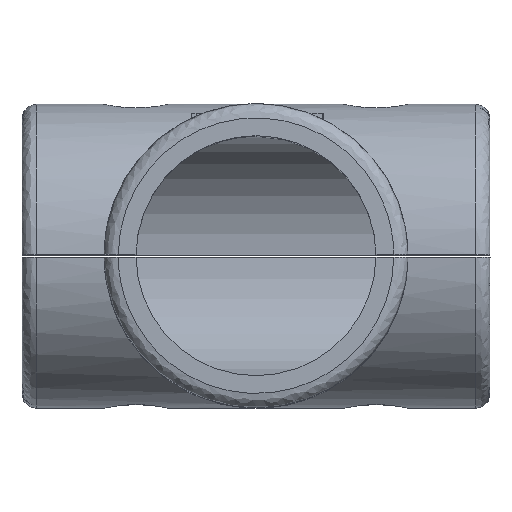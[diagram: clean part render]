
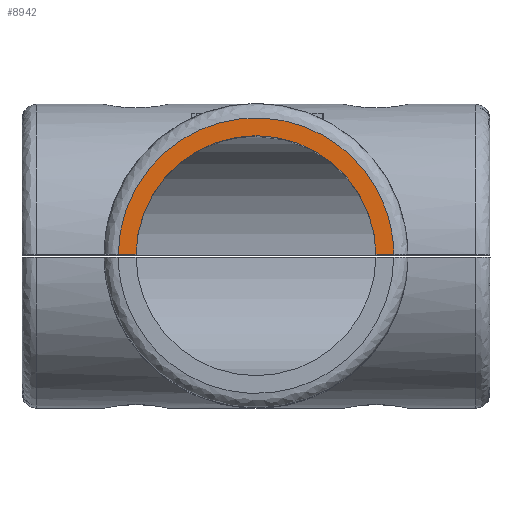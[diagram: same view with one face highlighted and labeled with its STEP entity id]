
A CAD part, top view. The second image highlights one B-rep face of the part: STEP entity #8942.
In plain terms, the highlighted planar face has unit normal (0, 0, 1).
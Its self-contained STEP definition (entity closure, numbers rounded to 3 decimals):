
#502 = ORIENTED_EDGE ( 'NONE', *, *, #7623, .T. ) ;
#1460 = VERTEX_POINT ( 'NONE', #11901 ) ;
#1527 =( BOUNDED_CURVE ( )  B_SPLINE_CURVE ( 3, ( #1851, #9462, #5157, #11719 ),
 .UNSPECIFIED., .F., .T. ) 
 B_SPLINE_CURVE_WITH_KNOTS ( ( 4, 4 ),
 ( 0., 1. ),
 .UNSPECIFIED. ) 
 CURVE ( )  GEOMETRIC_REPRESENTATION_ITEM ( )  RATIONAL_B_SPLINE_CURVE ( ( 1., 0.34, 0.34, 1. ) ) 
 REPRESENTATION_ITEM ( '' )  );
#1851 = CARTESIAN_POINT ( 'NONE',  ( -28.998, 0.3, 75. ) ) ;
#2168 = VECTOR ( 'NONE', #12992, 1000. ) ;
#2247 = PLANE ( 'NONE',  #12467 ) ;
#2318 = FACE_OUTER_BOUND ( 'NONE', #12966, .T. ) ;
#2391 = DIRECTION ( 'NONE',  ( 0., 0., 1. ) ) ;
#3080 = VERTEX_POINT ( 'NONE', #5832 ) ;
#3450 = VECTOR ( 'NONE', #13566, 1000. ) ;
#3587 = DIRECTION ( 'NONE',  ( -1., 0., 0. ) ) ;
#4040 = VERTEX_POINT ( 'NONE', #13080 ) ;
#4186 = EDGE_CURVE ( 'NONE', #4040, #1460, #7482, .T. ) ;
#5081 = CARTESIAN_POINT ( 'NONE',  ( -49.25, 0.3, 75. ) ) ;
#5157 = CARTESIAN_POINT ( 'NONE',  ( 28.411, 57.118, 75. ) ) ;
#5832 = CARTESIAN_POINT ( 'NONE',  ( 25.248, 0.3, 75. ) ) ;
#6267 = CARTESIAN_POINT ( 'NONE',  ( 28.998, 0.3, 75. ) ) ;
#6283 = CARTESIAN_POINT ( 'NONE',  ( -49.25, 0.3, 75. ) ) ;
#6349 = AXIS2_PLACEMENT_3D ( 'NONE', #8955, #13279, #3587 ) ;
#6516 = ORIENTED_EDGE ( 'NONE', *, *, #7381, .F. ) ;
#6688 = DIRECTION ( 'NONE',  ( 1., 0., 0. ) ) ;
#7381 = EDGE_CURVE ( 'NONE', #8825, #3080, #12433, .T. ) ;
#7482 = LINE ( 'NONE', #6283, #2168 ) ;
#7623 = EDGE_CURVE ( 'Edge3', #4040, #3080, #12890, .T. ) ;
#8132 = ORIENTED_EDGE ( 'NONE', *, *, #4186, .F. ) ;
#8825 = VERTEX_POINT ( 'NONE', #6267 ) ;
#8942 = ADVANCED_FACE ( 'NONE', ( #2318 ), #2247, .T. ) ;
#8955 = CARTESIAN_POINT ( 'NONE',  ( 0., 0., 75. ) ) ;
#9462 = CARTESIAN_POINT ( 'NONE',  ( -28.411, 57.118, 75. ) ) ;
#10678 = EDGE_CURVE ( 'Edge40', #1460, #8825, #1527, .T. ) ;
#11719 = CARTESIAN_POINT ( 'NONE',  ( 28.998, 0.3, 75. ) ) ;
#11901 = CARTESIAN_POINT ( 'NONE',  ( -28.998, 0.3, 75. ) ) ;
#12113 = CARTESIAN_POINT ( 'NONE',  ( 0., 0., 75. ) ) ;
#12433 = LINE ( 'NONE', #5081, #3450 ) ;
#12467 = AXIS2_PLACEMENT_3D ( 'NONE', #12113, #2391, #6688 ) ;
#12890 = CIRCLE ( 'NONE', #6349, 25.25 ) ;
#12966 = EDGE_LOOP ( 'NONE', ( #502, #6516, #13028, #8132 ) ) ;
#12992 = DIRECTION ( 'NONE',  ( -1., 0., 0. ) ) ;
#13028 = ORIENTED_EDGE ( 'NONE', *, *, #10678, .F. ) ;
#13080 = CARTESIAN_POINT ( 'NONE',  ( -25.248, 0.3, 75. ) ) ;
#13279 = DIRECTION ( 'NONE',  ( 0., 0., -1. ) ) ;
#13566 = DIRECTION ( 'NONE',  ( -1., 0., 0. ) ) ;
